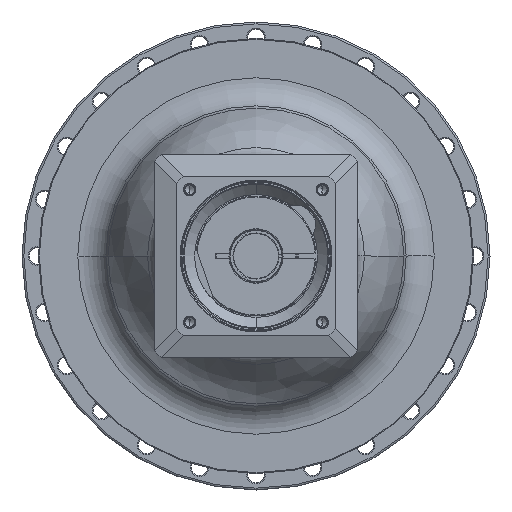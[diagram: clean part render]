
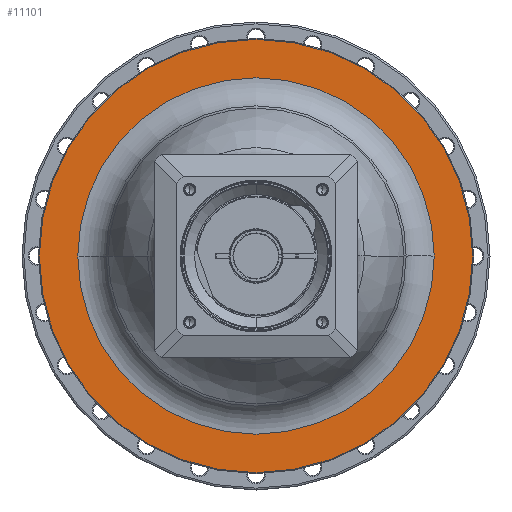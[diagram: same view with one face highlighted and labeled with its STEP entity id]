
A CAD part, left-side view. The second image highlights one B-rep face of the part: STEP entity #11101.
In plain terms, the highlighted planar face has unit normal (-1, 0, 0) as drawn and (1, 0, 0) by its records, which use the part's own axes.
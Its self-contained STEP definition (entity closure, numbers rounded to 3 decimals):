
#10604=CARTESIAN_POINT('',(-65.,0.,0.));
#10605=DIRECTION('',(-1.,0.,0.));
#10606=DIRECTION('',(0.,1.,0.));
#10607=AXIS2_PLACEMENT_3D('',#10604,#10605,#10606);
#10619=CARTESIAN_POINT('',(-65.,0.,0.));
#10620=DIRECTION('',(1.,0.,0.));
#10621=DIRECTION('',(0.,1.,0.));
#10622=AXIS2_PLACEMENT_3D('',#10619,#10620,#10621);
#10624=CARTESIAN_POINT('',(-65.,0.,0.));
#10625=DIRECTION('',(-1.,0.,0.));
#10626=DIRECTION('',(0.,-1.,0.));
#10627=AXIS2_PLACEMENT_3D('',#10624,#10625,#10626);
#10629=CARTESIAN_POINT('',(-65.,0.,0.));
#10630=DIRECTION('',(-1.,0.,0.));
#10631=DIRECTION('',(0.,1.,0.));
#10632=AXIS2_PLACEMENT_3D('',#10629,#10630,#10631);
#10754=CARTESIAN_POINT('',(-65.,-115.5,0.));
#10755=CARTESIAN_POINT('',(-65.,115.5,0.));
#10756=VERTEX_POINT('',#10754);
#10757=VERTEX_POINT('',#10755);
#10778=CARTESIAN_POINT('',(-65.,95.,0.));
#10779=CARTESIAN_POINT('',(-65.,-95.,0.));
#10780=VERTEX_POINT('',#10778);
#10781=VERTEX_POINT('',#10779);
#11086=CARTESIAN_POINT('',(-65.,0.,0.));
#11087=DIRECTION('',(1.,0.,0.));
#11088=DIRECTION('',(0.,-1.,0.));
#11089=AXIS2_PLACEMENT_3D('',#11086,#11087,#11088);
#11090=PLANE('',#11089);
#11092=ORIENTED_EDGE('',*,*,#11091,.T.);
#11094=ORIENTED_EDGE('',*,*,#11093,.T.);
#11095=EDGE_LOOP('',(#11092,#11094));
#11096=FACE_OUTER_BOUND('',#11095,.F.);
#11097=ORIENTED_EDGE('',*,*,#11080,.T.);
#11098=ORIENTED_EDGE('',*,*,#11066,.F.);
#11099=EDGE_LOOP('',(#11097,#11098));
#11100=FACE_BOUND('',#11099,.F.);
#11101=ADVANCED_FACE('',(#11096,#11100),#11090,.T.);
#10608=CIRCLE('',#10607,95.);
#10623=CIRCLE('',#10622,95.);
#10628=CIRCLE('',#10627,115.5);
#10633=CIRCLE('',#10632,115.5);
#11066=EDGE_CURVE('',#10780,#10781,#10608,.T.);
#11080=EDGE_CURVE('',#10780,#10781,#10623,.T.);
#11091=EDGE_CURVE('',#10756,#10757,#10628,.T.);
#11093=EDGE_CURVE('',#10757,#10756,#10633,.T.);
